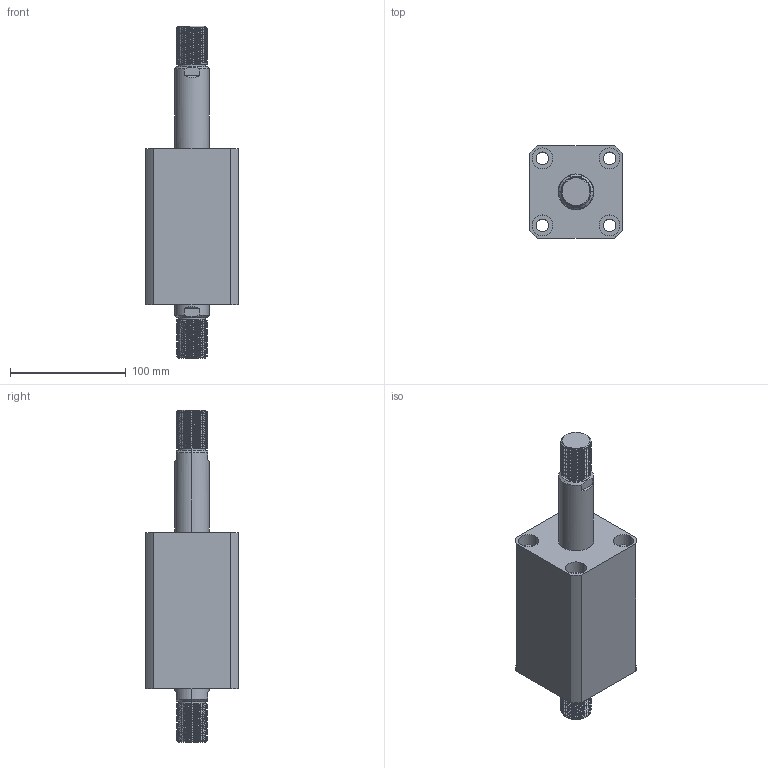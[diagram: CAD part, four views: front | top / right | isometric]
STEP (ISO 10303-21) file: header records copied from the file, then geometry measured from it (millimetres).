
FILE_DESCRIPTION (( 'STEP AP203' ), '1' );
FILE_NAME ('CHTB-SW50-60W.STEP', '2018-05-22T11:23:18', ( '' ), ( '' ), 'SwSTEP 2.0', 'SolidWorks 2015', '' );
FILE_SCHEMA (( 'CONFIG_CONTROL_DESIGN' ));
Length unit declared in the file: millimetre
Products named in the file (4): 活塞杆SW50-60W; ヶ裔; CHTB-SW50-60W; 掛极SW50-60W
Assembly tree (3 placements, depth 2):
  CHTB-SW50-60W
    掛极SW50-60W
    活塞杆SW50-60W
    ヶ裔
Bounding box: 80 x 80 x 287 mm (x, y, z)
Volume: 795192.1 mm3; surface area: 145404.8 mm2
Topology: 3 solids, 3 shells, 314 faces, 794 edges, 514 vertices
Faces by surface type: cylinder 202, plane 51, cone 29, torus 24, bspline 8
Entity records: 17377 total; most frequent: CARTESIAN_POINT 10049, ORIENTED_EDGE 1580, DIRECTION 1358, EDGE_CURVE 790, AXIS2_PLACEMENT_3D 549, VERTEX_POINT 514, EDGE_LOOP 362, FACE_OUTER_BOUND 314
